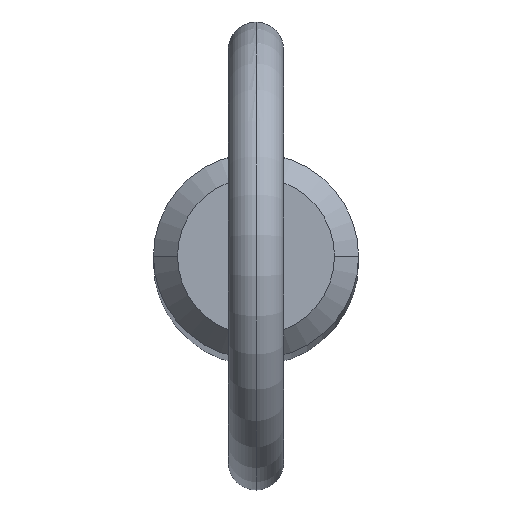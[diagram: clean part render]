
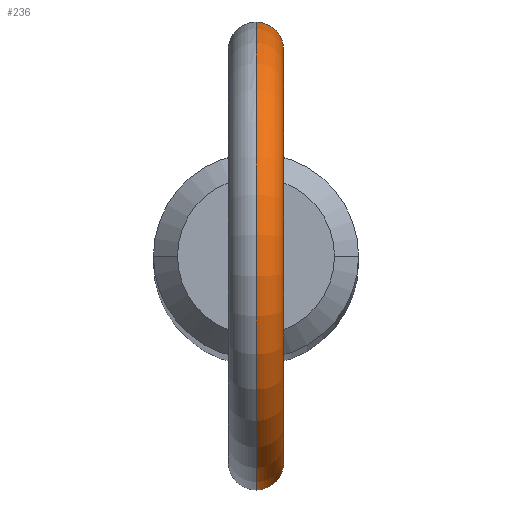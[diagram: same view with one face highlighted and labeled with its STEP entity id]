
A CAD part, top view. The second image highlights one B-rep face of the part: STEP entity #236.
In plain terms, the highlighted toroidal (fillet/blend) face has major radius 11.2 mm and minor radius 1.5 mm.
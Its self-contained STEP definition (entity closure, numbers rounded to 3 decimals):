
#19 = DIRECTION ( 'NONE',  ( 1., 0., 0. ) ) ;
#34 = DIRECTION ( 'NONE',  ( 0., 0., -1. ) ) ;
#38 = CARTESIAN_POINT ( 'NONE',  ( 0.716, -5.504, 179.252 ) ) ;
#42 = CARTESIAN_POINT ( 'NONE',  ( 1.363, -5.38, 179.934 ) ) ;
#44 = VERTEX_POINT ( 'NONE', #335 ) ;
#52 = VERTEX_POINT ( 'NONE', #207 ) ;
#55 = CARTESIAN_POINT ( 'NONE',  ( 0.81, 5.494, 179.295 ) ) ;
#58 = DIRECTION ( 'NONE',  ( 0., 0., -1. ) ) ;
#65 = ORIENTED_EDGE ( 'NONE', *, *, #97, .F. ) ;
#84 = CARTESIAN_POINT ( 'NONE',  ( 0., -5.55, 182.545 ) ) ;
#87 = CARTESIAN_POINT ( 'NONE',  ( 0.977, -5.464, 179.432 ) ) ;
#97 = EDGE_CURVE ( 'NONE', #198, #44, #358, .T. ) ;
#105 = DIRECTION ( 'NONE',  ( 0., 0., -1. ) ) ;
#110 = CARTESIAN_POINT ( 'NONE',  ( 0., 0., 190.5 ) ) ;
#121 = CARTESIAN_POINT ( 'NONE',  ( 1.503, -5.343, 180.659 ) ) ;
#126 = CARTESIAN_POINT ( 'NONE',  ( 0., -5.55, 179.077 ) ) ;
#127 = EDGE_CURVE ( 'NONE', #44, #355, #145, .T. ) ;
#133 = CARTESIAN_POINT ( 'NONE',  ( 0.522, 5.526, 179.165 ) ) ;
#142 = CARTESIAN_POINT ( 'NONE',  ( 1.003, 5.459, 182.025 ) ) ;
#144 = CARTESIAN_POINT ( 'NONE',  ( 0.213, 5.55, 182.545 ) ) ;
#145 = CIRCLE ( 'NONE', #288, 9.7 ) ;
#154 = DIRECTION ( 'NONE',  ( 1., 0., 0. ) ) ;
#160 = CARTESIAN_POINT ( 'NONE',  ( 0.106, -5.55, 182.545 ) ) ;
#163 = CARTESIAN_POINT ( 'NONE',  ( 0.107, 5.55, 179.077 ) ) ;
#165 = CARTESIAN_POINT ( 'NONE',  ( 0.213, -5.547, 179.088 ) ) ;
#167 = CARTESIAN_POINT ( 'NONE',  ( 1.44, -5.36, 181.186 ) ) ;
#180 = CARTESIAN_POINT ( 'NONE',  ( 0.984, 5.464, 179.424 ) ) ;
#183 = CARTESIAN_POINT ( 'NONE',  ( 1.19, 5.421, 179.662 ) ) ;
#185 = CARTESIAN_POINT ( 'NONE',  ( 1.44, 5.36, 181.188 ) ) ;
#187 = CARTESIAN_POINT ( 'NONE',  ( 0.694, 5.507, 182.314 ) ) ;
#191 = CARTESIAN_POINT ( 'NONE',  ( 0.933, 5.472, 182.104 ) ) ;
#194 = CARTESIAN_POINT ( 'NONE',  ( 1.485, 5.348, 180.978 ) ) ;
#198 = VERTEX_POINT ( 'NONE', #201 ) ;
#201 = CARTESIAN_POINT ( 'NONE',  ( 0., 5.55, 179.077 ) ) ;
#207 = CARTESIAN_POINT ( 'NONE',  ( 0., -5.55, 179.077 ) ) ;
#218 = CARTESIAN_POINT ( 'NONE',  ( 1.393, 5.372, 180.033 ) ) ;
#219 = EDGE_LOOP ( 'NONE', ( #65, #522, #378, #466 ) ) ;
#226 = AXIS2_PLACEMENT_3D ( 'NONE', #515, #154, #34 ) ;
#229 = CARTESIAN_POINT ( 'NONE',  ( 1.294, 5.398, 181.585 ) ) ;
#231 = CIRCLE ( 'NONE', #389, 12.7 ) ;
#234 = CARTESIAN_POINT ( 'NONE',  ( 0.779, 5.496, 182.248 ) ) ;
#236 = ADVANCED_FACE ( 'NONE', ( #265 ), #471, .T. ) ;
#251 = CARTESIAN_POINT ( 'NONE',  ( 1.26, -5.407, 179.743 ) ) ;
#256 = CARTESIAN_POINT ( 'NONE',  ( 0.107, -5.55, 179.077 ) ) ;
#257 = CARTESIAN_POINT ( 'NONE',  ( 1.352, 5.383, 179.935 ) ) ;
#265 = FACE_OUTER_BOUND ( 'NONE', #219, .T. ) ;
#288 = AXIS2_PLACEMENT_3D ( 'NONE', #110, #19, #105 ) ;
#294 = CARTESIAN_POINT ( 'NONE',  ( 1.295, -5.397, 181.582 ) ) ;
#299 = CARTESIAN_POINT ( 'NONE',  ( 0.417, -5.535, 182.467 ) ) ;
#300 = CARTESIAN_POINT ( 'NONE',  ( 1.455, -5.356, 180.238 ) ) ;
#305 = CARTESIAN_POINT ( 'NONE',  ( 0.212, 5.547, 179.088 ) ) ;
#310 = CARTESIAN_POINT ( 'NONE',  ( 0., 0., 190.5 ) ) ;
#326 = CARTESIAN_POINT ( 'NONE',  ( 0.523, -5.526, 179.166 ) ) ;
#333 = CARTESIAN_POINT ( 'NONE',  ( 0.941, -5.471, 182.107 ) ) ;
#334 = EDGE_CURVE ( 'NONE', #355, #52, #357, .T. ) ;
#335 = CARTESIAN_POINT ( 'NONE',  ( 0., 5.55, 182.545 ) ) ;
#355 = VERTEX_POINT ( 'NONE', #84 ) ;
#357 = B_SPLINE_CURVE_WITH_KNOTS ( 'NONE', 3,
 ( #359, #160, #406, #299, #518, #372, #333, #409, #294, #167, #526, #121, #524, #368, #300, #42, #251, #450, #87, #367, #38, #326, #484, #165, #256, #126 ),
 .UNSPECIFIED., .F., .F.,
 ( 4, 2, 2, 2, 2, 2, 2, 2, 2, 2, 2, 2, 4 ),
 ( 0.005, 0.005, 0.005, 0.006, 0.006, 0.007, 0.007, 0.008, 0.008, 0.009, 0.009, 0.009, 0.01 ),
 .UNSPECIFIED. ) ;
#358 = B_SPLINE_CURVE_WITH_KNOTS ( 'NONE', 3,
 ( #402, #163, #305, #451, #133, #55, #180, #183, #482, #257, #218, #485, #424, #194, #185, #229, #459, #142, #191, #234, #187, #421, #144, #383 ),
 .UNSPECIFIED., .F., .F.,
 ( 4, 2, 2, 2, 2, 2, 2, 2, 2, 2, 2, 4 ),
 ( 0.001, 0.001, 0.001, 0.002, 0.002, 0.002, 0.003, 0.004, 0.004, 0.005, 0.005, 0.006 ),
 .UNSPECIFIED. ) ;
#359 = CARTESIAN_POINT ( 'NONE',  ( 0., -5.55, 182.545 ) ) ;
#367 = CARTESIAN_POINT ( 'NONE',  ( 0.807, -5.492, 179.306 ) ) ;
#368 = CARTESIAN_POINT ( 'NONE',  ( 1.477, -5.35, 180.344 ) ) ;
#372 = CARTESIAN_POINT ( 'NONE',  ( 0.786, -5.497, 182.257 ) ) ;
#378 = ORIENTED_EDGE ( 'NONE', *, *, #334, .F. ) ;
#383 = CARTESIAN_POINT ( 'NONE',  ( 0., 5.55, 182.545 ) ) ;
#389 = AXIS2_PLACEMENT_3D ( 'NONE', #310, #492, #58 ) ;
#402 = CARTESIAN_POINT ( 'NONE',  ( 0., 5.55, 179.077 ) ) ;
#406 = CARTESIAN_POINT ( 'NONE',  ( 0.214, -5.547, 182.528 ) ) ;
#409 = CARTESIAN_POINT ( 'NONE',  ( 1.194, -5.422, 181.771 ) ) ;
#421 = CARTESIAN_POINT ( 'NONE',  ( 0.422, 5.537, 182.478 ) ) ;
#424 = CARTESIAN_POINT ( 'NONE',  ( 1.509, 5.341, 180.553 ) ) ;
#450 = CARTESIAN_POINT ( 'NONE',  ( 1.055, -5.449, 179.505 ) ) ;
#451 = CARTESIAN_POINT ( 'NONE',  ( 0.419, 5.535, 179.132 ) ) ;
#459 = CARTESIAN_POINT ( 'NONE',  ( 1.194, 5.422, 181.772 ) ) ;
#466 = ORIENTED_EDGE ( 'NONE', *, *, #127, .F. ) ;
#469 = EDGE_CURVE ( 'NONE', #198, #52, #231, .T. ) ;
#471 = TOROIDAL_SURFACE ( 'NONE', #226, 11.2, 1.5 ) ;
#482 = CARTESIAN_POINT ( 'NONE',  ( 1.251, 5.407, 179.75 ) ) ;
#484 = CARTESIAN_POINT ( 'NONE',  ( 0.421, -5.535, 179.132 ) ) ;
#485 = CARTESIAN_POINT ( 'NONE',  ( 1.486, 5.348, 180.338 ) ) ;
#492 = DIRECTION ( 'NONE',  ( 1., 0., 0. ) ) ;
#515 = CARTESIAN_POINT ( 'NONE',  ( 0., 0., 190.5 ) ) ;
#518 = CARTESIAN_POINT ( 'NONE',  ( 0.515, -5.527, 182.422 ) ) ;
#522 = ORIENTED_EDGE ( 'NONE', *, *, #469, .T. ) ;
#524 = CARTESIAN_POINT ( 'NONE',  ( 1.5, -5.343, 180.554 ) ) ;
#526 = CARTESIAN_POINT ( 'NONE',  ( 1.486, -5.347, 180.974 ) ) ;
